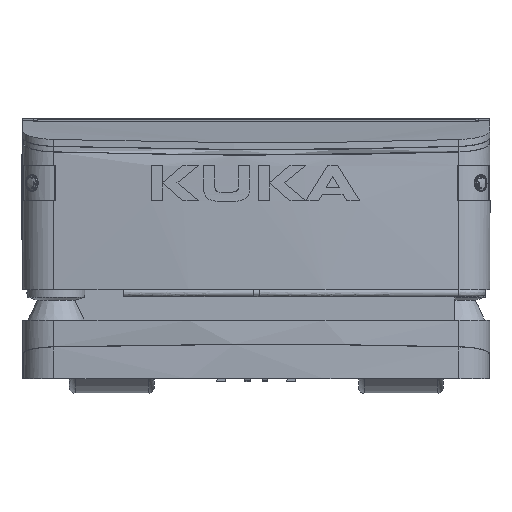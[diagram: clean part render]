
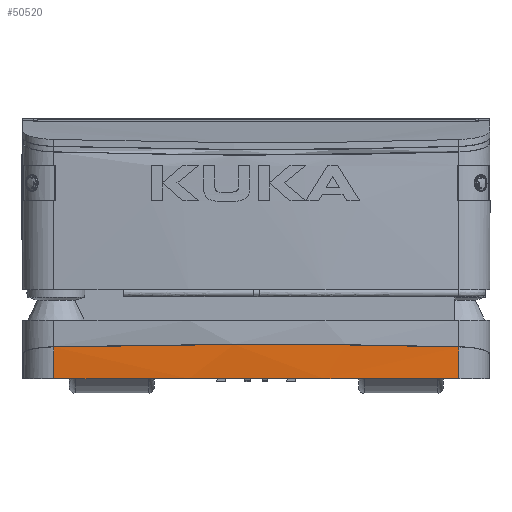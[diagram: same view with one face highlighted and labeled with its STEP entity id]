
A CAD part, left-side view. The second image highlights one B-rep face of the part: STEP entity #50520.
In plain terms, the highlighted cylindrical face has radius 2998.5 mm (diameter 5997 mm), a partial arc.
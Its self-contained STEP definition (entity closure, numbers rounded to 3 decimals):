
#38107=B_SPLINE_CURVE_WITH_KNOTS('',3,(#238289,#238290,#238291,#238292,
#238293),.UNSPECIFIED.,.F.,.F.,(4,1,4),(0.,0.5,1.),.UNSPECIFIED.);
#39846=CYLINDRICAL_SURFACE('',#170588,2998.5);
#43824=FACE_OUTER_BOUND('',#85714,.T.);
#50520=ADVANCED_FACE('',(#43824),#39846,.T.);
#63393=LINE('',#240312,#73868);
#63394=LINE('',#240316,#73869);
#73868=VECTOR('',#193543,1.);
#73869=VECTOR('',#193548,1.);
#85714=EDGE_LOOP('',(#107557,#107558,#107559,#107560));
#107557=ORIENTED_EDGE('',*,*,#144975,.F.);
#107558=ORIENTED_EDGE('',*,*,#145805,.T.);
#107559=ORIENTED_EDGE('',*,*,#145806,.F.);
#107560=ORIENTED_EDGE('',*,*,#145807,.F.);
#130535=VERTEX_POINT('',#238278);
#130537=VERTEX_POINT('',#238283);
#131249=VERTEX_POINT('',#240311);
#131250=VERTEX_POINT('',#240315);
#144975=EDGE_CURVE('',#130535,#130537,#38107,.T.);
#145805=EDGE_CURVE('',#130535,#131249,#63393,.T.);
#145806=EDGE_CURVE('',#131250,#131249,#156529,.T.);
#145807=EDGE_CURVE('',#130537,#131250,#63394,.T.);
#156529=CIRCLE('',#170587,2998.5);
#170587=AXIS2_PLACEMENT_3D('',#240314,#193546,#193547);
#170588=AXIS2_PLACEMENT_3D('',#240317,#193549,#193550);
#193543=DIRECTION('',(0.,0.,-1.));
#193546=DIRECTION('',(0.,0.,-1.));
#193547=DIRECTION('',(0.993,-0.116,0.));
#193548=DIRECTION('',(0.,0.,-1.));
#193549=DIRECTION('',(0.,0.,1.));
#193550=DIRECTION('',(0.993,-0.116,0.));
#238278=CARTESIAN_POINT('',(-978.381,346.765,79.383));
#238283=CARTESIAN_POINT('',(-978.381,-346.765,79.383));
#238289=CARTESIAN_POINT('',(-978.381,346.765,79.383));
#238290=CARTESIAN_POINT('',(-991.839,231.177,82.195));
#238291=CARTESIAN_POINT('',(-1005.161,0.,85.021));
#238292=CARTESIAN_POINT('',(-991.839,-231.177,82.195));
#238293=CARTESIAN_POINT('',(-978.381,-346.765,79.383));
#240311=CARTESIAN_POINT('',(-978.381,346.765,25.));
#240312=CARTESIAN_POINT('',(-978.381,346.765,25.));
#240314=CARTESIAN_POINT('',(2000.,0.,25.));
#240315=CARTESIAN_POINT('',(-978.381,-346.765,25.));
#240316=CARTESIAN_POINT('',(-978.381,-346.765,25.));
#240317=CARTESIAN_POINT('',(2000.,0.,25.));
